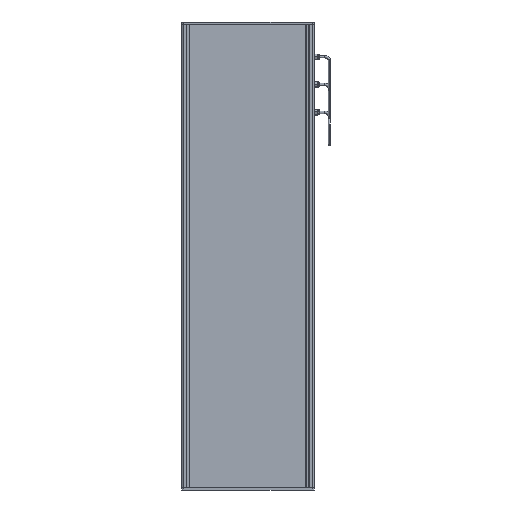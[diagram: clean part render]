
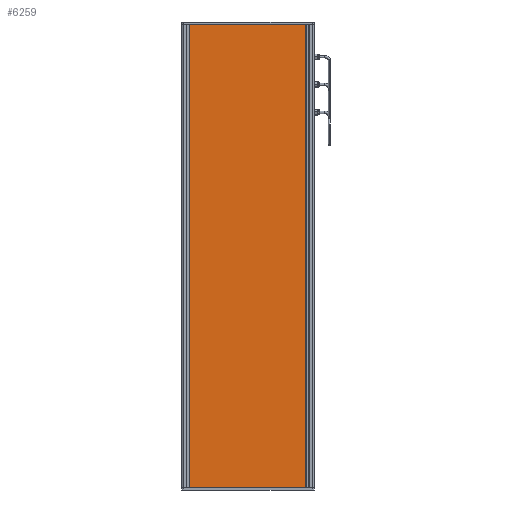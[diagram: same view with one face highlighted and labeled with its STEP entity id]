
A CAD part, front view. The second image highlights one B-rep face of the part: STEP entity #6259.
In plain terms, the highlighted planar face has unit normal (0, -1, 0) as drawn and (0, 0, 1) by its records, which use the part's own axes.
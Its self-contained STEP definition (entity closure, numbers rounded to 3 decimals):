
#731 = EDGE_LOOP ( 'NONE', ( #8544, #2293, #11628, #5719 ) ) ;
#769 = PLANE ( 'NONE',  #7787 ) ;
#936 = DIRECTION ( 'NONE',  ( -1., 0., 0. ) ) ;
#1441 = CARTESIAN_POINT ( 'NONE',  ( -9., -1000., 0. ) ) ;
#2266 = EDGE_CURVE ( 'NONE', #7444, #4705, #13357, .T. ) ;
#2293 = ORIENTED_EDGE ( 'NONE', *, *, #9818, .T. ) ;
#2708 = VERTEX_POINT ( 'NONE', #5745 ) ;
#3254 = FACE_OUTER_BOUND ( 'NONE', #731, .T. ) ;
#4705 = VERTEX_POINT ( 'NONE', #9534 ) ;
#5182 = VERTEX_POINT ( 'NONE', #11303 ) ;
#5387 = DIRECTION ( 'NONE',  ( -1., 0., 0. ) ) ;
#5475 = VECTOR ( 'NONE', #5387, 1000. ) ;
#5719 = ORIENTED_EDGE ( 'NONE', *, *, #2266, .T. ) ;
#5745 = CARTESIAN_POINT ( 'NONE',  ( -259., 0., 0. ) ) ;
#6035 = CARTESIAN_POINT ( 'NONE',  ( 0., 0., 0. ) ) ;
#6259 = ADVANCED_FACE ( 'NONE', ( #3254 ), #769, .F. ) ;
#6300 = LINE ( 'NONE', #10200, #8906 ) ;
#6720 = DIRECTION ( 'NONE',  ( 1., 0., 0. ) ) ;
#7444 = VERTEX_POINT ( 'NONE', #15739 ) ;
#7787 = AXIS2_PLACEMENT_3D ( 'NONE', #6035, #11309, #936 ) ;
#8544 = ORIENTED_EDGE ( 'NONE', *, *, #12830, .T. ) ;
#8906 = VECTOR ( 'NONE', #11393, 1000. ) ;
#9205 = VECTOR ( 'NONE', #16503, 1000. ) ;
#9534 = CARTESIAN_POINT ( 'NONE',  ( -9., -1000., 0. ) ) ;
#9818 = EDGE_CURVE ( 'NONE', #5182, #2708, #12177, .T. ) ;
#10200 = CARTESIAN_POINT ( 'NONE',  ( -259., 0., 0. ) ) ;
#10569 = CARTESIAN_POINT ( 'NONE',  ( -9., 0., 0. ) ) ;
#11303 = CARTESIAN_POINT ( 'NONE',  ( -9., 0., 0. ) ) ;
#11309 = DIRECTION ( 'NONE',  ( 0., 0., -1. ) ) ;
#11393 = DIRECTION ( 'NONE',  ( 0., -1., 0. ) ) ;
#11628 = ORIENTED_EDGE ( 'NONE', *, *, #12046, .T. ) ;
#12046 = EDGE_CURVE ( 'NONE', #2708, #7444, #6300, .T. ) ;
#12177 = LINE ( 'NONE', #10569, #5475 ) ;
#12830 = EDGE_CURVE ( 'NONE', #4705, #5182, #13835, .T. ) ;
#13357 = LINE ( 'NONE', #1441, #15989 ) ;
#13835 = LINE ( 'NONE', #15047, #9205 ) ;
#15047 = CARTESIAN_POINT ( 'NONE',  ( -9., 0., 0. ) ) ;
#15739 = CARTESIAN_POINT ( 'NONE',  ( -259., -1000., 0. ) ) ;
#15989 = VECTOR ( 'NONE', #6720, 1000. ) ;
#16503 = DIRECTION ( 'NONE',  ( 0., 1., 0. ) ) ;
